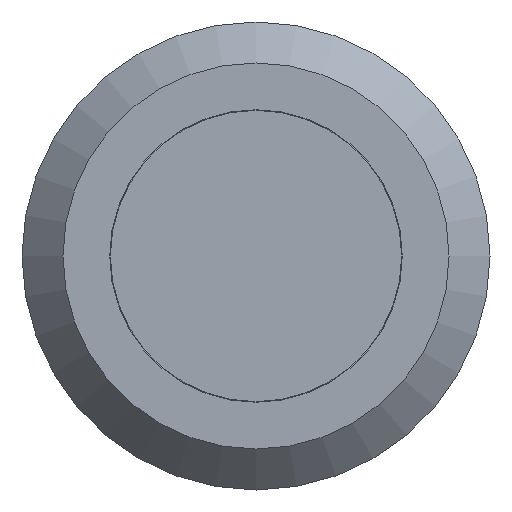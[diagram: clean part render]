
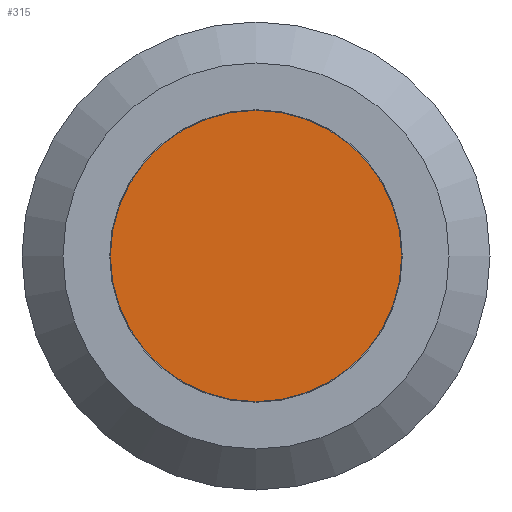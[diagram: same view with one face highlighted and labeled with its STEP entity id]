
A CAD part, front view. The second image highlights one B-rep face of the part: STEP entity #315.
In plain terms, the highlighted planar face has unit normal (0, -1, 0).
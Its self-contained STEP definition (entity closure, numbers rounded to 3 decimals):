
#96=ORIENTED_EDGE('',*,*,#164,.T.);
#164=EDGE_CURVE('',#202,#202,#223,.T.);
#202=VERTEX_POINT('',#512);
#223=CIRCLE('',#357,4.98);
#246=EDGE_LOOP('',(#96));
#276=FACE_BOUND('',#246,.T.);
#294=PLANE('',#358);
#315=ADVANCED_FACE('',(#276),#294,.F.);
#357=AXIS2_PLACEMENT_3D('',#511,#416,#417);
#358=AXIS2_PLACEMENT_3D('',#513,#418,#419);
#416=DIRECTION('',(0.,-1.,0.));
#417=DIRECTION('',(0.,0.,-1.));
#418=DIRECTION('',(0.,1.,0.));
#419=DIRECTION('',(0.,0.,1.));
#511=CARTESIAN_POINT('',(0.,0.,0.));
#512=CARTESIAN_POINT('',(0.,0.,-4.98));
#513=CARTESIAN_POINT('',(4.98,0.,0.));
